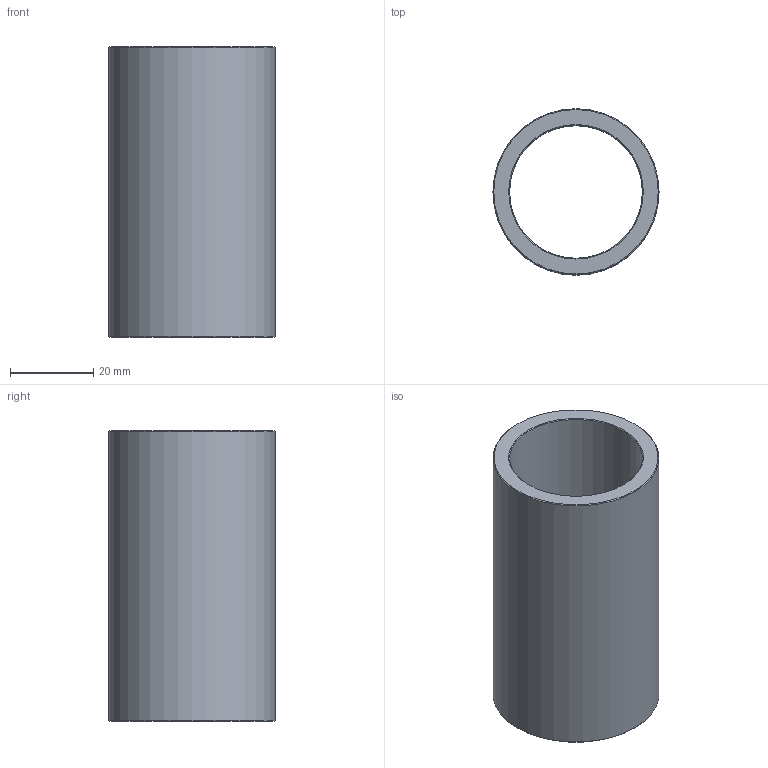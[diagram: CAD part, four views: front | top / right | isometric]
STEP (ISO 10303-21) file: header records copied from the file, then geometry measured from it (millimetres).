
FILE_DESCRIPTION(('STEP AP203'),'1');
FILE_NAME('C:/Users/Rodrigo/Desktop/GA4.032.070-1.step','2016-11-07T17:21:02',(' '),(' '),'Spatial InterOp 3D',' ',' ');
FILE_SCHEMA(('CONFIG_CONTROL_DESIGN'));
Length unit declared in the file: millimetre
Products named in the file (1): 1
Bounding box: 40 x 40 x 70 mm (x, y, z)
Volume: 31658.2 mm3; surface area: 16685.4 mm2
Topology: 1 solids, 1 shells, 8 faces, 14 edges, 8 vertices
Faces by surface type: cone 4, cylinder 2, plane 2
Full cylindrical faces by diameter (mm): 32 x1, 40 x1
Entity records: 212 total; most frequent: DIRECTION 34, CARTESIAN_POINT 25, AXIS2_PLACEMENT_3D 17, EDGE_LOOP 16, ORIENTED_EDGE 16, FACE_OUTER_BOUND 10, ADVANCED_FACE 8, EDGE_CURVE 8
